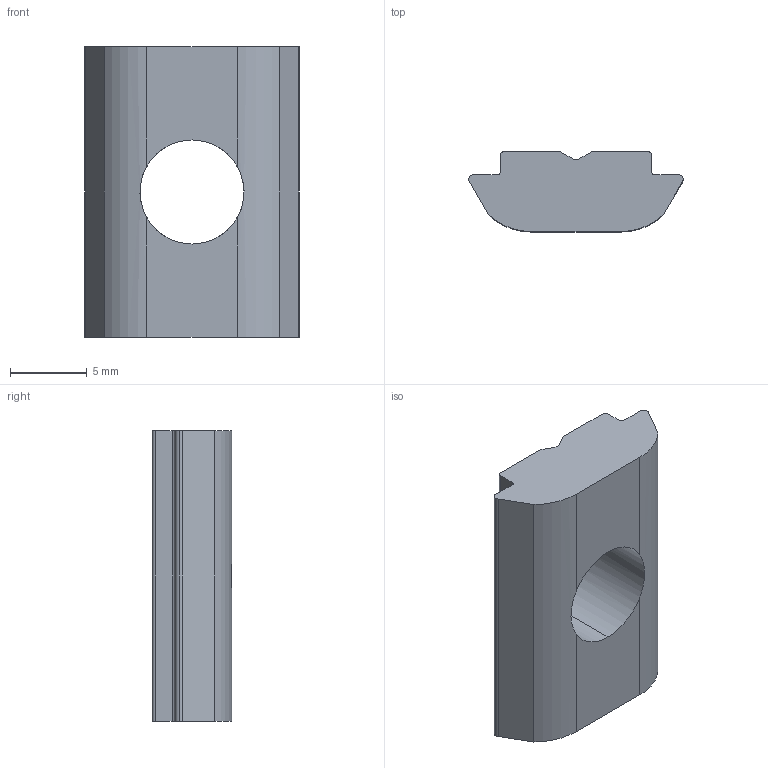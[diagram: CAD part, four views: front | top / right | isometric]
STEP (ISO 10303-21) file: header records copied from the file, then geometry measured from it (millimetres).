
FILE_DESCRIPTION(('STEP AP214'),'1');
FILE_NAME('C:/TPO v2/SharedFS/Outgoing/fath_096168.stp','2016-08-26T13:07:31',('TraceParts'),('TraceParts S.A.'),'Spatial InterOp 3D',' ',' ');
FILE_SCHEMA(('automotive_design'));
Length unit declared in the file: millimetre
Products named in the file (1): fath_096168
Bounding box: 14 x 5.2 x 19 mm (x, y, z)
Volume: 925.3 mm3; surface area: 808.4 mm2
Topology: 1 solids, 1 shells, 31 faces, 93 edges, 62 vertices
Faces by surface type: plane 16, cylinder 15
Entity records: 1356 total; most frequent: CARTESIAN_POINT 233, ORIENTED_EDGE 186, DIRECTION 177, EDGE_CURVE 93, AXIS2_PLACEMENT_3D 62, VERTEX_POINT 62, LINE 53, VECTOR 53
